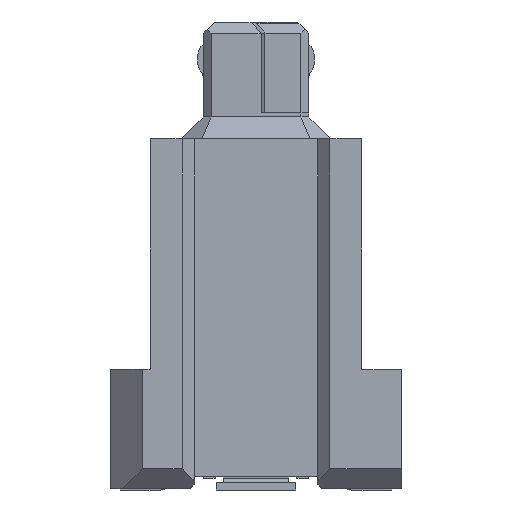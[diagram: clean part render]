
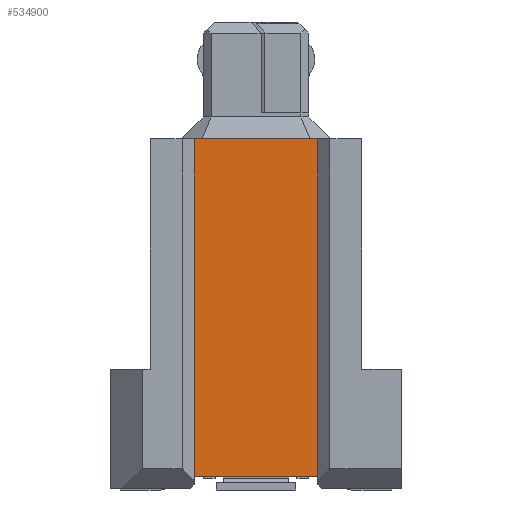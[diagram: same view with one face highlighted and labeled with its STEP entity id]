
A CAD part, left-side view. The second image highlights one B-rep face of the part: STEP entity #534900.
In plain terms, the highlighted planar face has unit normal (-1, 0, 0).
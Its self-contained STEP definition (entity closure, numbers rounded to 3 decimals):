
#413380=CARTESIAN_POINT('',(-5.032,3.41,4.2));
#413390=VERTEX_POINT('',#413380);
#413420=CARTESIAN_POINT('',(-5.032,3.41,0.));
#413430=DIRECTION('',(0.,0.,-1.));
#413440=VECTOR('',#413430,1.);
#413450=LINE('',#413420,#413440);
#413460=CARTESIAN_POINT('',(-5.032,3.41,1.1));
#413470=VERTEX_POINT('',#413460);
#413480=EDGE_CURVE('',#413390,#413470,#413450,.T.);
#489010=CARTESIAN_POINT('',(-5.032,-5.06,1.1));
#489020=VERTEX_POINT('',#489010);
#489220=CARTESIAN_POINT('',(-5.032,-1.36,1.1));
#489230=DIRECTION('',(0.,1.,0.));
#489240=VECTOR('',#489230,1.);
#489250=LINE('',#489220,#489240);
#489260=EDGE_CURVE('',#489020,#413470,#489250,.T.);
#508230=CARTESIAN_POINT('',(-5.032,-5.06,4.2));
#508240=VERTEX_POINT('',#508230);
#508270=CARTESIAN_POINT('',(-5.032,1.,4.2));
#508280=DIRECTION('',(0.,-1.,0.));
#508290=VECTOR('',#508280,1.);
#508300=LINE('',#508270,#508290);
#508310=EDGE_CURVE('',#413390,#508240,#508300,.T.);
#509800=CARTESIAN_POINT('',(-5.032,-5.06,0.));
#509810=DIRECTION('',(0.,0.,-1.));
#509820=VECTOR('',#509810,1.);
#509830=LINE('',#509800,#509820);
#509840=EDGE_CURVE('',#508240,#489020,#509830,.T.);
#534790=CARTESIAN_POINT('',(-5.032,-2.36,5.3));
#534800=DIRECTION('',(-1.,0.,0.));
#534810=DIRECTION('',(0.,1.,0.));
#534820=AXIS2_PLACEMENT_3D('',#534790,#534800,#534810);
#534830=PLANE('',#534820);
#534840=ORIENTED_EDGE('',*,*,#413480,.T.);
#534850=ORIENTED_EDGE('',*,*,#508310,.F.);
#534860=ORIENTED_EDGE('',*,*,#509840,.F.);
#534870=ORIENTED_EDGE('',*,*,#489260,.F.);
#534880=EDGE_LOOP('',(#534870,#534860,#534850,#534840));
#534890=FACE_OUTER_BOUND('',#534880,.T.);
#534900=ADVANCED_FACE('',(#534890),#534830,.T.);
